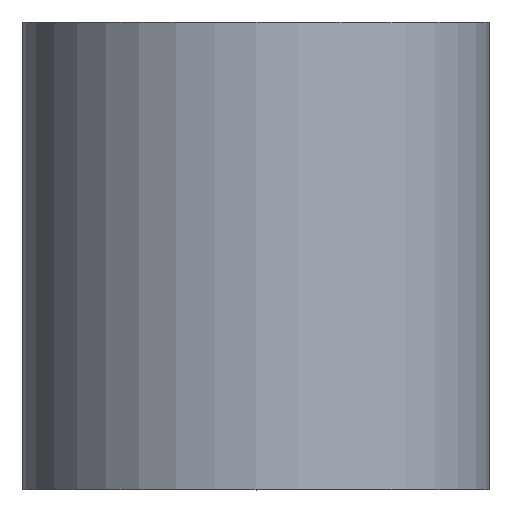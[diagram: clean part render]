
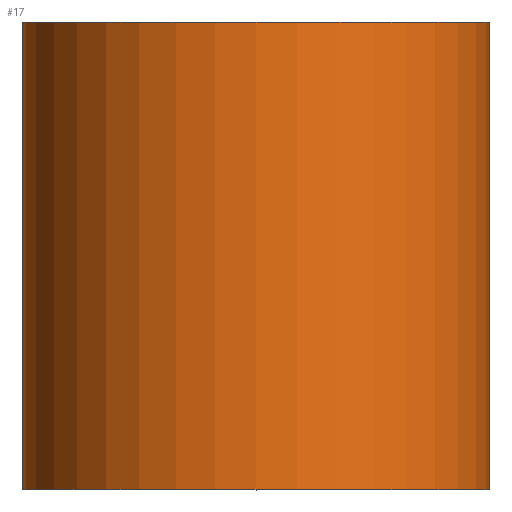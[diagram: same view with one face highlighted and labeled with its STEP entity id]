
A CAD part, top view. The second image highlights one B-rep face of the part: STEP entity #17.
In plain terms, the highlighted cylindrical face has radius 5 mm (diameter 10 mm), a partial arc.
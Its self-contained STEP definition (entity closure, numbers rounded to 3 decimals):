
#8 = DIRECTION ( 'NONE',  ( -1., 0., 0. ) ) ;
#17 = ADVANCED_FACE ( 'NONE', ( #107 ), #229, .T. ) ;
#26 = CIRCLE ( 'NONE', #59, 5. ) ;
#45 = VERTEX_POINT ( 'NONE', #280 ) ;
#50 = CARTESIAN_POINT ( 'NONE',  ( 0., 10., 0. ) ) ;
#59 = AXIS2_PLACEMENT_3D ( 'NONE', #269, #289, #195 ) ;
#63 = AXIS2_PLACEMENT_3D ( 'NONE', #163, #70, #68 ) ;
#68 = DIRECTION ( 'NONE',  ( -1., 0., 0. ) ) ;
#70 = DIRECTION ( 'NONE',  ( 0., 1., 0. ) ) ;
#89 = CARTESIAN_POINT ( 'NONE',  ( -5., 0., 0. ) ) ;
#93 = DIRECTION ( 'NONE',  ( 0., 1., 0. ) ) ;
#107 = FACE_OUTER_BOUND ( 'NONE', #241, .T. ) ;
#109 = ORIENTED_EDGE ( 'NONE', *, *, #156, .F. ) ;
#120 = ORIENTED_EDGE ( 'NONE', *, *, #261, .T. ) ;
#130 = VERTEX_POINT ( 'NONE', #89 ) ;
#131 = EDGE_CURVE ( 'NONE', #130, #196, #206, .T. ) ;
#156 = EDGE_CURVE ( 'NONE', #196, #45, #256, .T. ) ;
#163 = CARTESIAN_POINT ( 'NONE',  ( 0., 0., 0. ) ) ;
#166 = DIRECTION ( 'NONE',  ( 0., 1., 0. ) ) ;
#179 = VECTOR ( 'NONE', #166, 1000. ) ;
#186 = VECTOR ( 'NONE', #93, 1000. ) ;
#191 = CARTESIAN_POINT ( 'NONE',  ( 5., 0., 0. ) ) ;
#195 = DIRECTION ( 'NONE',  ( -1., 0., 0. ) ) ;
#196 = VERTEX_POINT ( 'NONE', #211 ) ;
#206 = LINE ( 'NONE', #282, #179 ) ;
#207 = ORIENTED_EDGE ( 'NONE', *, *, #218, .T. ) ;
#211 = CARTESIAN_POINT ( 'NONE',  ( -5., 10., 0. ) ) ;
#213 = ORIENTED_EDGE ( 'NONE', *, *, #131, .F. ) ;
#214 = DIRECTION ( 'NONE',  ( 0., 1., 0. ) ) ;
#218 = EDGE_CURVE ( 'NONE', #271, #45, #250, .T. ) ;
#229 = CYLINDRICAL_SURFACE ( 'NONE', #63, 5. ) ;
#234 = CARTESIAN_POINT ( 'NONE',  ( 5., 0., 0. ) ) ;
#241 = EDGE_LOOP ( 'NONE', ( #120, #207, #109, #213 ) ) ;
#250 = LINE ( 'NONE', #234, #186 ) ;
#256 = CIRCLE ( 'NONE', #265, 5. ) ;
#261 = EDGE_CURVE ( 'NONE', #130, #271, #26, .T. ) ;
#265 = AXIS2_PLACEMENT_3D ( 'NONE', #50, #214, #8 ) ;
#269 = CARTESIAN_POINT ( 'NONE',  ( 0., 0., 0. ) ) ;
#271 = VERTEX_POINT ( 'NONE', #191 ) ;
#280 = CARTESIAN_POINT ( 'NONE',  ( 5., 10., 0. ) ) ;
#282 = CARTESIAN_POINT ( 'NONE',  ( -5., 0., 0. ) ) ;
#289 = DIRECTION ( 'NONE',  ( 0., 1., 0. ) ) ;
